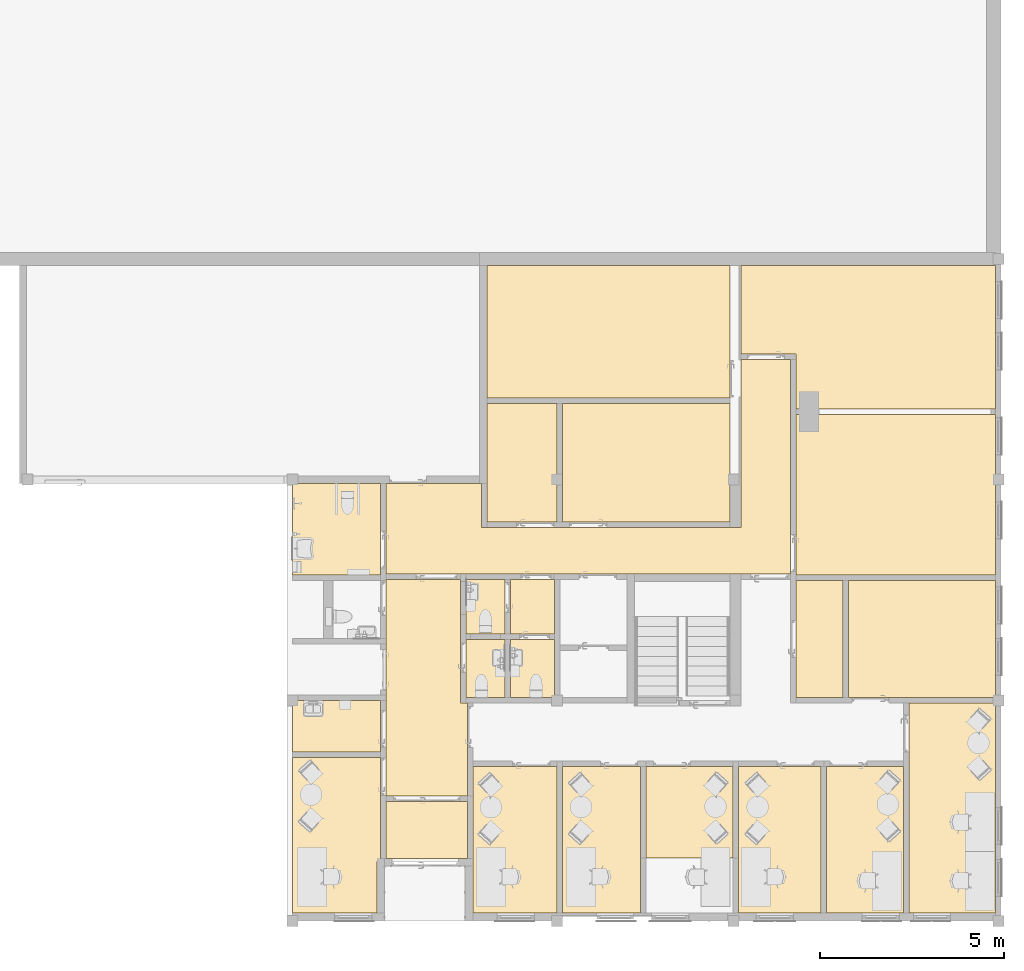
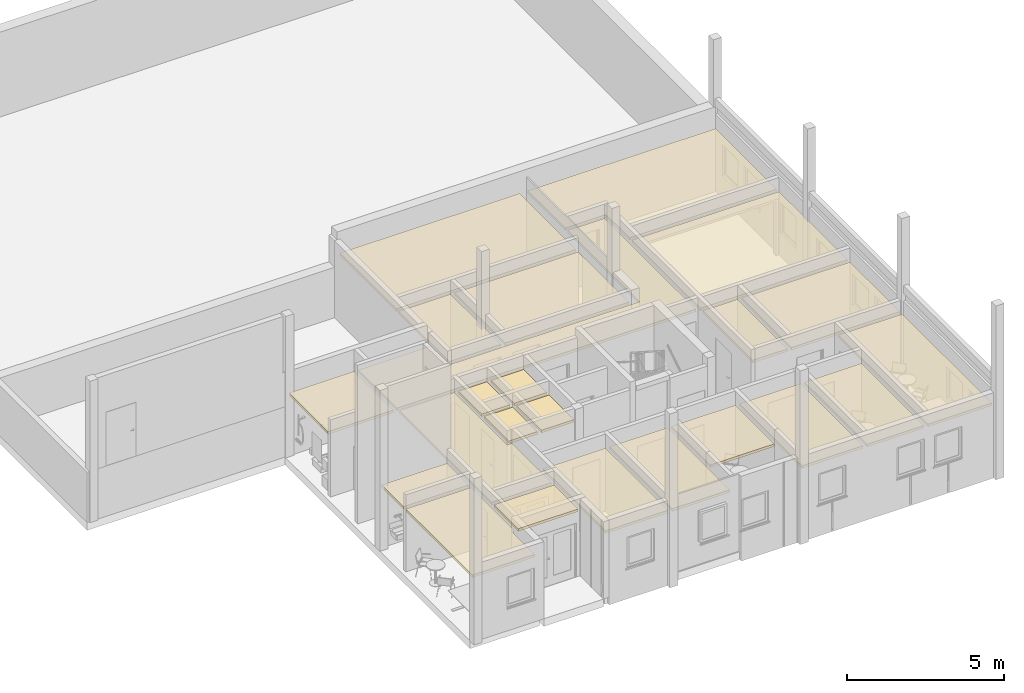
# One storey, part 39 of 58: 24 coverings.
"""IFC2X3 building model written with IfcOpenShell, lengths in millimetres."""

from ifc_helpers import new_model, entity, si_unit, converted_unit, derived_unit, direction, frame, frame_2d, origin, origin_2d_with_axis, place, context, subcontext, project, spatial, polyline, rectangle, outline, extrude, material, layer, layer_set, layer_usage, type_object, element, save


model = new_model("IFC2X3")

# Units and contexts
model_context = context("Model", 3, precision=0.01, world=origin(), true_north=direction((0.7716245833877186, 0.6360782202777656)))
body_context = subcontext(model_context, "Body", "Model", "MODEL_VIEW")
ifc_project = project(units=[si_unit("LENGTHUNIT", "METRE", prefix="MILLI"), si_unit("AREAUNIT", "SQUARE_METRE"), converted_unit("PLANEANGLEUNIT", "DEGREE", entity("IfcPlaneAngleMeasure", 0.017453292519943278), si_unit("PLANEANGLEUNIT", "RADIAN"), dimensions=[0, 0, 0, 0, 0, 0, 0]), derived_unit("THERMALTRANSMITTANCEUNIT", [(si_unit("MASSUNIT", "GRAM", prefix="KILO"), 1), (si_unit("THERMODYNAMICTEMPERATUREUNIT", "KELVIN"), -1), (si_unit("TIMEUNIT", "SECOND"), -3)])], contexts=[model_context])

# Site, building, storey, space
site_placement = place(None, origin())
site = spatial("IfcSite", under=ifc_project, at=site_placement, Name="Default", CompositionType="ELEMENT")
building_placement = place(site_placement, origin())
building = spatial("IfcBuilding", under=site, at=building_placement, CompositionType="ELEMENT")
storey_placement = place(building_placement, frame((0.0, 0.0, 31140.0)))
storey = spatial("IfcBuildingStorey", under=building, at=storey_placement, Name="PLAN U1", CompositionType="ELEMENT", Elevation=31140.000000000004)
space_1_placement = place(storey_placement, origin())
space_1 = spatial("IfcSpace", under=storey, at=space_1_placement, Name="Korridor", CompositionType="ELEMENT", InteriorOrExteriorSpace="INTERNAL")

# Covering
ifc_material_1 = material(Name="<Unnamed>")
ifc_layer_1 = layer(ifc_material_1, 80.0)
ifc_material_2 = material(Name="Himling, system, 600 x 600")
ifc_layer_2 = layer(ifc_material_2, 20.0)
ifc_layer_set_1 = layer_set([ifc_layer_1, ifc_layer_2], Name="Compound Ceiling:2571 Innvendig systemhimling 600x600 100 mm")
ifc_layer_usage_1 = layer_usage(ifc_layer_set_1, "AXIS3", "NEGATIVE", 100.0)
covering_type_1 = type_object("IfcCoveringType", Name="Compound Ceiling:2571 Innvendig systemhimling 600x600 100 mm", PredefinedType="CEILING")
covering_1_placement = place(space_1_placement, origin())
element("IfcCovering", 1, at=covering_1_placement, inside=space_1, type_object=covering_type_1, material=ifc_layer_usage_1, Name="Compound Ceiling:2571 Innvendig systemhimling 600x600 100 mm", ObjectType="Compound Ceiling:2571 Innvendig systemhimling 600x600 100 mm", PredefinedType="CEILING", context=body_context, shape_type="SweptSolid", body=[
    extrude(outline(polyline([(3582.692307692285, -1470.3479587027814), (4932.692307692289, -1470.3479587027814), (4932.692307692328, 4365.405951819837), (3582.692307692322, 4365.405951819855), (3582.692307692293, -209.59404818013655), (-3477.307692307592, -209.59404818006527), (-3477.307692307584, 990.4059518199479), (-6067.307692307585, 990.4059518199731), (-6067.3076923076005, -1470.3479587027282), (-4042.3076923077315, -1470.3479587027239), (-1497.307692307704, -1470.3479587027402), (582.6923076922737, -1470.3479587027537), (3432.6923076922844, -1470.3479587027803), (3582.692307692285, -1470.3479587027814)])), frame((267335.2321387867, 64224.849598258, 2350.0)), (0.0, 0.0, 1.0), 99.99999999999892),
])

# Space
space_2_placement = place(storey_placement, origin())
space_2 = spatial("IfcSpace", under=storey, at=space_2_placement, Name="Gang", CompositionType="ELEMENT", InteriorOrExteriorSpace="INTERNAL")

# Covering
ifc_layer_usage_2 = layer_usage(ifc_layer_set_1, "AXIS3", "NEGATIVE", 100.0)
covering_2_placement = place(space_2_placement, origin())
element("IfcCovering", 2, at=covering_2_placement, inside=space_2, type_object=covering_type_1, material=ifc_layer_usage_2, Name="Compound Ceiling:2571 Innvendig systemhimling 600x600 100 mm", ObjectType="Compound Ceiling:2571 Innvendig systemhimling 600x600 100 mm", PredefinedType="CEILING", context=body_context, shape_type="SweptSolid", body=[
    extrude(outline(polyline([(-2963.3422835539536, -1148.2500000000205), (-438.3422835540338, -1148.2500000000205), (-438.3422835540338, -967.2499999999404), (2925.9038059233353, -967.2499999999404), (2925.903805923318, 1057.7499999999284), (1315.9038059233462, 1057.7499999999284), (-364.3422835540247, 1057.7499999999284), (-2963.342283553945, 1057.7499999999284), (-2963.3422835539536, -1148.2500000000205)])), frame((262325.674446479, 59678.59783363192, 2350.0), z_axis=(0.0, 0.0, 1.0), x_axis=(0.0, 1.0, 0.0)), (0.0, 0.0, 1.0), 99.99999999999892),
])

# Space
space_3_placement = place(storey_placement, origin())
space_3 = spatial("IfcSpace", under=storey, at=space_3_placement, Name="Kontor", CompositionType="ELEMENT", InteriorOrExteriorSpace="INTERNAL")

# Covering
ifc_layer_usage_3 = layer_usage(ifc_layer_set_1, "AXIS3", "NEGATIVE", 100.0)
covering_3_placement = place(space_3_placement, origin())
element("IfcCovering", 3, at=covering_3_placement, inside=space_3, type_object=covering_type_1, material=ifc_layer_usage_3, Name="Compound Ceiling:2571 Innvendig systemhimling 600x600 100 mm", ObjectType="Compound Ceiling:2571 Innvendig systemhimling 600x600 100 mm", PredefinedType="CEILING", context=body_context, shape_type="SweptSolid", body=[
    extrude(rectangle(XDim=3987.9999999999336, YDim=2293.9999999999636, at=frame_2d((-12.571428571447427, -491.5714285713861), x_axis=(1.0, 0.0))), frame((264279.35301790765, 55533.826978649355, 2350.0), z_axis=(0.0, 0.0, 1.0), x_axis=(0.0, 1.0, 0.0)), (0.0, 0.0, 1.0), 99.99999999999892),
])

# Space
space_4_placement = place(storey_placement, origin())
space_4 = spatial("IfcSpace", under=storey, at=space_4_placement, Name="B5-324", CompositionType="ELEMENT", InteriorOrExteriorSpace="INTERNAL")

# Covering
ifc_layer_usage_4 = layer_usage(ifc_layer_set_1, "AXIS3", "NEGATIVE", 100.0)
covering_4_placement = place(space_4_placement, origin())
element("IfcCovering", 4, at=covering_4_placement, inside=space_4, type_object=covering_type_1, material=ifc_layer_usage_4, Name="Compound Ceiling:2571 Innvendig systemhimling 600x600 100 mm", ObjectType="Compound Ceiling:2571 Innvendig systemhimling 600x600 100 mm", PredefinedType="CEILING", context=body_context, shape_type="SweptSolid", body=[
    extrude(rectangle(XDim=2487.9999999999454, YDim=2355.3679592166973, at=frame_2d((-8.640199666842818e-12, 0.0), x_axis=(1.0, 0.0))), frame((269515.24046687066, 56271.2555500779, 2350.0), z_axis=(0.0, 0.0, 1.0), x_axis=(0.0, 1.0, 0.0)), (0.0, 0.0, 1.0), 99.99999999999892),
])

# Space
space_5_placement = place(storey_placement, origin())
space_5 = spatial("IfcSpace", under=storey, at=space_5_placement, Name="Vindfang", CompositionType="ELEMENT", InteriorOrExteriorSpace="INTERNAL")

# Covering
ifc_layer_usage_5 = layer_usage(ifc_layer_set_1, "AXIS3", "NEGATIVE", 100.0)
covering_5_placement = place(space_5_placement, origin())
element("IfcCovering", 5, at=covering_5_placement, inside=space_5, type_object=covering_type_1, material=ifc_layer_usage_5, Name="Compound Ceiling:2571 Innvendig systemhimling 600x600 100 mm", ObjectType="Compound Ceiling:2571 Innvendig systemhimling 600x600 100 mm", PredefinedType="CEILING", context=body_context, shape_type="SweptSolid", body=[
    extrude(rectangle(XDim=1543.9999999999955, YDim=2205.999999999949, at=frame_2d((4.320099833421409e-12, 0.0), x_axis=(1.0, 0.0))), frame((262370.92444647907, 55793.25555007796, 2350.0), z_axis=(0.0, 0.0, 1.0), x_axis=(0.0, 1.0, 0.0)), (0.0, 0.0, 1.0), 99.99999999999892),
])

# Space
space_6_placement = place(storey_placement, origin())
space_6 = spatial("IfcSpace", under=storey, at=space_6_placement, Name="B5-326", CompositionType="ELEMENT", InteriorOrExteriorSpace="INTERNAL")

# Covering
ifc_layer_3 = layer(ifc_material_1, 100.0)
ifc_layer_set_2 = layer_set([ifc_layer_3], Name="Compound Ceiling:257 Generisk himling 100 mm")
ifc_layer_usage_6 = layer_usage(ifc_layer_set_2, "AXIS3", "NEGATIVE", 100.0)
covering_type_2 = type_object("IfcCoveringType", Name="Compound Ceiling:257 Generisk himling 100 mm", PredefinedType="CEILING")
covering_6_placement = place(space_6_placement, origin())
element("IfcCovering", 6, at=covering_6_placement, inside=space_6, type_object=covering_type_2, material=ifc_layer_usage_6, Name="Compound Ceiling:257 Generisk himling 100 mm", ObjectType="Compound Ceiling:257 Generisk himling 100 mm", PredefinedType="CEILING", context=body_context, shape_type="SweptSolid", body=[
    extrude(rectangle(XDim=3987.9999999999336, YDim=2119.6320407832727, at=frame_2d((189.4166666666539, 353.27200679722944), x_axis=(1.0, 0.0))), frame((267481.01247366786, 55331.83888341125, 2350.0), z_axis=(0.0, 0.0, 1.0), x_axis=(0.0, 1.0, 0.0)), (0.0, 0.0, 1.0), 99.99999999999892),
])

# Space
space_7_placement = place(storey_placement, origin())
space_7 = spatial("IfcSpace", under=storey, at=space_7_placement, Name="B5-323", CompositionType="ELEMENT", InteriorOrExteriorSpace="INTERNAL")

# Covering
ifc_layer_usage_7 = layer_usage(ifc_layer_set_2, "AXIS3", "NEGATIVE", 100.0)
covering_7_placement = place(space_7_placement, origin())
element("IfcCovering", 7, at=covering_7_placement, inside=space_7, type_object=covering_type_2, material=ifc_layer_usage_7, Name="Compound Ceiling:257 Generisk himling 100 mm", ObjectType="Compound Ceiling:257 Generisk himling 100 mm", PredefinedType="CEILING", context=body_context, shape_type="SweptSolid", body=[
    extrude(rectangle(XDim=2250.000000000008, YDim=3987.9999999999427, at=frame_2d((-190.0000000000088, 122.50000000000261), x_axis=(1.0, 0.0))), frame((271777.924446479, 55643.7555500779, 2350.0), z_axis=(0.0, 0.0, 1.0), x_axis=(-1.0, 0.0, 0.0)), (0.0, 0.0, 1.0), 99.99999999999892),
])

# Space
space_8_placement = place(storey_placement, origin())
space_8 = spatial("IfcSpace", under=storey, at=space_8_placement, Name="B5-322", CompositionType="ELEMENT", InteriorOrExteriorSpace="INTERNAL")

# Covering
ifc_layer_usage_8 = layer_usage(ifc_layer_set_2, "AXIS3", "NEGATIVE", 100.0)
covering_8_placement = place(space_8_placement, origin())
element("IfcCovering", 8, at=covering_8_placement, inside=space_8, type_object=covering_type_2, material=ifc_layer_usage_8, Name="Compound Ceiling:257 Generisk himling 100 mm", ObjectType="Compound Ceiling:257 Generisk himling 100 mm", PredefinedType="CEILING", context=body_context, shape_type="SweptSolid", body=[
    extrude(rectangle(XDim=2090.00000000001, YDim=3987.9999999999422, at=frame_2d((1.7394086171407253e-11, 4.320099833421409e-12), x_axis=(1.0, 0.0))), frame((274287.924446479, 55521.25555007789, 2350.0), z_axis=(0.0, 0.0, 1.0), x_axis=(-1.0, 0.0, 0.0)), (0.0, 0.0, 1.0), 99.99999999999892),
])

# Space
space_9_placement = place(storey_placement, origin())
space_9 = spatial("IfcSpace", under=storey, at=space_9_placement, Name="B5-321", CompositionType="ELEMENT", InteriorOrExteriorSpace="INTERNAL")

# Covering
ifc_layer_usage_9 = layer_usage(ifc_layer_set_2, "AXIS3", "NEGATIVE", 100.0)
covering_9_placement = place(space_9_placement, origin())
element("IfcCovering", 9, at=covering_9_placement, inside=space_9, type_object=covering_type_2, material=ifc_layer_usage_9, Name="Compound Ceiling:257 Generisk himling 100 mm", ObjectType="Compound Ceiling:257 Generisk himling 100 mm", PredefinedType="CEILING", context=body_context, shape_type="SweptSolid", body=[
    extrude(rectangle(XDim=2347.3329011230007, YDim=5712.99999999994, at=frame_2d((1.7280399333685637e-11, 0.0), x_axis=(1.0, 0.0))), frame((276656.59089704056, 56383.755550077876, 2350.0), z_axis=(0.0, 0.0, 1.0), x_axis=(-1.0, 0.0, 0.0)), (0.0, 0.0, 1.0), 99.99999999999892),
])

# Space
space_10_placement = place(storey_placement, origin())
space_10 = spatial("IfcSpace", under=storey, at=space_10_placement, Name="B5-401", CompositionType="ELEMENT", InteriorOrExteriorSpace="INTERNAL")

# Covering
ifc_layer_usage_10 = layer_usage(ifc_layer_set_2, "AXIS3", "NEGATIVE", 100.0)
covering_10_placement = place(space_10_placement, origin())
element("IfcCovering", 10, at=covering_10_placement, inside=space_10, type_object=covering_type_2, material=ifc_layer_usage_10, Name="Compound Ceiling:257 Generisk himling 100 mm", ObjectType="Compound Ceiling:257 Generisk himling 100 mm", PredefinedType="CEILING", context=body_context, shape_type="SweptSolid", body=[
    extrude(rectangle(XDim=3180.4675216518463, YDim=1275.0000000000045, at=frame_2d((0.0, 1.7337242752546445e-11), x_axis=(1.0, 0.0))), frame((273055.424446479, 60980.48931090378, 2350.0), z_axis=(0.0, 0.0, 1.0), x_axis=(0.0, 1.0, 0.0)), (0.0, 0.0, 1.0), 99.99999999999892),
])

# Space
space_11_placement = place(storey_placement, origin())
space_11 = spatial("IfcSpace", under=storey, at=space_11_placement, Name="B5-317", CompositionType="ELEMENT", InteriorOrExteriorSpace="INTERNAL")

# Covering
ifc_layer_usage_11 = layer_usage(ifc_layer_set_2, "AXIS3", "NEGATIVE", 100.0)
covering_11_placement = place(space_11_placement, origin())
element("IfcCovering", 11, at=covering_11_placement, inside=space_11, type_object=covering_type_2, material=ifc_layer_usage_11, Name="Compound Ceiling:257 Generisk himling 100 mm", ObjectType="Compound Ceiling:257 Generisk himling 100 mm", PredefinedType="CEILING", context=body_context, shape_type="SweptSolid", body=[
    extrude(rectangle(XDim=5412.332901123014, YDim=4372.700035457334, at=frame_2d((1.7280399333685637e-11, 0.0), x_axis=(1.0, 0.0))), frame((275124.0908970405, 64907.07308945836, 2350.0), z_axis=(0.0, 0.0, 1.0), x_axis=(-1.0, 0.0, 0.0)), (0.0, 0.0, 1.0), 99.99999999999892),
])

# Space
space_12_placement = place(storey_placement, origin())
space_12 = spatial("IfcSpace", under=storey, at=space_12_placement, Name="B5-314", CompositionType="ELEMENT", InteriorOrExteriorSpace="INTERNAL")

# Covering
ifc_layer_usage_12 = layer_usage(ifc_layer_set_2, "AXIS3", "NEGATIVE", 100.0)
covering_12_placement = place(space_12_placement, origin())
element("IfcCovering", 12, at=covering_12_placement, inside=space_12, type_object=covering_type_2, material=ifc_layer_usage_12, Name="Compound Ceiling:257 Generisk himling 100 mm", ObjectType="Compound Ceiling:257 Generisk himling 100 mm", PredefinedType="CEILING", context=body_context, shape_type="SweptSolid", body=[
    extrude(outline(polyline([(-2095.6108142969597, -2804.1109670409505), (299.3891857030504, -2804.1109670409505), (299.389185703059, -1304.110967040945), (1796.2216285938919, -1304.110967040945), (1796.2216285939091, 4108.221934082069), (-2095.6108142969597, 4108.221934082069), (-2095.6108142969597, -2804.1109670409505)])), frame((273722.03541351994, 69039.64473578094, 2350.0), z_axis=(0.0, 0.0, 1.0), x_axis=(0.0, -1.0, 0.0)), (0.0, 0.0, 1.0), 99.99999999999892),
])

# Space
space_13_placement = place(storey_placement, origin())
space_13 = spatial("IfcSpace", under=storey, at=space_13_placement, Name="B5-319", CompositionType="ELEMENT", InteriorOrExteriorSpace="INTERNAL")

# Covering
ifc_layer_usage_13 = layer_usage(ifc_layer_set_2, "AXIS3", "NEGATIVE", 100.0)
covering_13_placement = place(space_13_placement, origin())
element("IfcCovering", 13, at=covering_13_placement, inside=space_13, type_object=covering_type_2, material=ifc_layer_usage_13, Name="Compound Ceiling:257 Generisk himling 100 mm", ObjectType="Compound Ceiling:257 Generisk himling 100 mm", PredefinedType="CEILING", context=body_context, shape_type="SweptSolid", body=[
    extrude(rectangle(XDim=3987.332901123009, YDim=3180.4675216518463, at=frame_2d((0.0, 4.320099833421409e-12), x_axis=(1.0, 0.0))), frame((275836.5908970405, 60980.48931090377, 2350.0), z_axis=(0.0, 0.0, 1.0), x_axis=(-1.0, 0.0, 0.0)), (0.0, 0.0, 1.0), 99.99999999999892),
])

# Space
space_14_placement = place(storey_placement, origin())
space_14 = spatial("IfcSpace", under=storey, at=space_14_placement, Name="B5-302", CompositionType="ELEMENT", InteriorOrExteriorSpace="INTERNAL")

# Covering
ifc_layer_usage_14 = layer_usage(ifc_layer_set_2, "AXIS3", "NEGATIVE", 100.0)
covering_14_placement = place(space_14_placement, origin())
element("IfcCovering", 14, at=covering_14_placement, inside=space_14, type_object=covering_type_2, material=ifc_layer_usage_14, Name="Compound Ceiling:257 Generisk himling 100 mm", ObjectType="Compound Ceiling:257 Generisk himling 100 mm", PredefinedType="CEILING", context=body_context, shape_type="SweptSolid", body=[
    extrude(rectangle(XDim=2400.000000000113, YDim=1399.0000000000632, at=frame_2d((-1.7394086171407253e-11, 4.320099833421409e-12), x_axis=(1.0, 0.0))), frame((259917.92444647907, 58614.75555007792, 2350.0)), (0.0, 0.0, 1.0), 99.99999999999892),
])

# Space
space_15_placement = place(storey_placement, origin())
space_15 = spatial("IfcSpace", under=storey, at=space_15_placement, Name="B5-301", CompositionType="ELEMENT", InteriorOrExteriorSpace="INTERNAL")

# Covering
ifc_layer_usage_15 = layer_usage(ifc_layer_set_2, "AXIS3", "NEGATIVE", 100.0)
covering_15_placement = place(space_15_placement, origin())
element("IfcCovering", 15, at=covering_15_placement, inside=space_15, type_object=covering_type_2, material=ifc_layer_usage_15, Name="Compound Ceiling:257 Generisk himling 100 mm", ObjectType="Compound Ceiling:257 Generisk himling 100 mm", PredefinedType="CEILING", context=body_context, shape_type="SweptSolid", body=[
    extrude(outline(polyline([(158.62762124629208, -872.8054702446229), (308.5342588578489, -872.8054702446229), (2248.8352664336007, 1067.4955373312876), (551.7789915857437, 2764.5518121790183), (-2444.939547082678, -232.16672648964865), (-822.8365910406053, -1854.269682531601), (158.62762124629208, -872.8054702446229)])), frame((260282.5911131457, 55420.255550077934, 2350.0), z_axis=(0.0, 0.0, 1.0), x_axis=(0.7071067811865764, 0.7071067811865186, 0.0)), (0.0, 0.0, 1.0), 99.99999999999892),
])

# Space
space_16_placement = place(storey_placement, origin())
space_16 = spatial("IfcSpace", under=storey, at=space_16_placement, Name="B5-311B", CompositionType="ELEMENT", InteriorOrExteriorSpace="INTERNAL")

# Covering
ifc_layer_usage_16 = layer_usage(ifc_layer_set_2, "AXIS3", "NEGATIVE", 100.0)
covering_16_placement = place(space_16_placement, origin())
element("IfcCovering", 16, at=covering_16_placement, inside=space_16, type_object=covering_type_2, material=ifc_layer_usage_16, Name="Compound Ceiling:257 Generisk himling 100 mm", ObjectType="Compound Ceiling:257 Generisk himling 100 mm", PredefinedType="CEILING", context=body_context, shape_type="SweptSolid", body=[
    extrude(rectangle(XDim=1582.12304473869, YDim=1050.0000000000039, at=frame_2d((-4.320099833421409e-12, 0.0), x_axis=(1.0, 0.0))), frame((263967.92444647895, 60181.31707244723, 2350.0), z_axis=(0.0, 0.0, 1.0), x_axis=(0.0, 1.0, 0.0)), (0.0, 0.0, 1.0), 99.99999999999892),
])

# Space
space_17_placement = place(storey_placement, origin())
space_17 = spatial("IfcSpace", under=storey, at=space_17_placement, Name="WC", CompositionType="ELEMENT", InteriorOrExteriorSpace="INTERNAL")

# Covering
ifc_layer_usage_17 = layer_usage(ifc_layer_set_2, "AXIS3", "NEGATIVE", 100.0)
covering_17_placement = place(space_17_placement, origin())
element("IfcCovering", 17, at=covering_17_placement, inside=space_17, type_object=covering_type_2, material=ifc_layer_usage_17, Name="Compound Ceiling:257 Generisk himling 100 mm", ObjectType="Compound Ceiling:257 Generisk himling 100 mm", PredefinedType="CEILING", context=body_context, shape_type="SweptSolid", body=[
    extrude(rectangle(XDim=1482.1230447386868, YDim=1050.0000000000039, at=frame_2d((-8.640199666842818e-12, 0.0), x_axis=(1.0, 0.0))), frame((263967.92444647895, 61863.44011718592, 2350.0), z_axis=(0.0, 0.0, 1.0), x_axis=(0.0, 1.0, 0.0)), (0.0, 0.0, 1.0), 99.99999999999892),
])

# Space
space_18_placement = place(storey_placement, origin())
space_18 = spatial("IfcSpace", under=storey, at=space_18_placement, Name="B5-311", CompositionType="ELEMENT", InteriorOrExteriorSpace="INTERNAL")

# Covering
ifc_layer_usage_18 = layer_usage(ifc_layer_set_2, "AXIS3", "NEGATIVE", 100.0)
covering_18_placement = place(space_18_placement, origin())
element("IfcCovering", 18, at=covering_18_placement, inside=space_18, type_object=covering_type_2, material=ifc_layer_usage_18, Name="Compound Ceiling:257 Generisk himling 100 mm", ObjectType="Compound Ceiling:257 Generisk himling 100 mm", PredefinedType="CEILING", context=body_context, shape_type="SweptSolid", body=[
    extrude(rectangle(XDim=1482.1230447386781, YDim=1200.0000000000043, at=origin_2d_with_axis()), frame((265242.924446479, 61863.440117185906, 2350.0), z_axis=(0.0, 0.0, 1.0), x_axis=(0.0, -1.0, 0.0)), (0.0, 0.0, 1.0), 99.99999999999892),
])

# Space
space_19_placement = place(storey_placement, origin())
space_19 = spatial("IfcSpace", under=storey, at=space_19_placement, Name="B5-311A", CompositionType="ELEMENT", InteriorOrExteriorSpace="INTERNAL")

# Covering
ifc_layer_usage_19 = layer_usage(ifc_layer_set_2, "AXIS3", "NEGATIVE", 100.0)
covering_19_placement = place(space_19_placement, origin())
element("IfcCovering", 19, at=covering_19_placement, inside=space_19, type_object=covering_type_2, material=ifc_layer_usage_19, Name="Compound Ceiling:257 Generisk himling 100 mm", ObjectType="Compound Ceiling:257 Generisk himling 100 mm", PredefinedType="CEILING", context=body_context, shape_type="SweptSolid", body=[
    extrude(rectangle(XDim=1582.1230447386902, YDim=1200.0000000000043, at=frame_2d((-8.697043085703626e-12, 0.0), x_axis=(1.0, 0.0))), frame((265242.924446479, 60181.31707244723, 2350.0), z_axis=(0.0, 0.0, 1.0), x_axis=(0.0, 1.0, 0.0)), (0.0, 0.0, 1.0), 99.99999999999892),
])

# Space
space_20_placement = place(storey_placement, origin())
space_20 = spatial("IfcSpace", under=storey, at=space_20_placement, Name="B5-304", CompositionType="ELEMENT", InteriorOrExteriorSpace="INTERNAL")

# Covering
ifc_layer_usage_20 = layer_usage(ifc_layer_set_2, "AXIS3", "NEGATIVE", 100.0)
covering_20_placement = place(space_20_placement, origin())
element("IfcCovering", 20, at=covering_20_placement, inside=space_20, type_object=covering_type_2, material=ifc_layer_usage_20, Name="Compound Ceiling:257 Generisk himling 100 mm", ObjectType="Compound Ceiling:257 Generisk himling 100 mm", PredefinedType="CEILING", context=body_context, shape_type="SweptSolid", body=[
    extrude(rectangle(XDim=2400.000000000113, YDim=2494.5324783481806, at=frame_2d((-1.7394086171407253e-11, 4.320099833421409e-12), x_axis=(1.0, 0.0))), frame((259917.92444647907, 63967.989310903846, 2350.0)), (0.0, 0.0, 1.0), 99.99999999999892),
])

# Space
space_21_placement = place(storey_placement, origin())
space_21 = spatial("IfcSpace", under=storey, at=space_21_placement, Name="B5-303", CompositionType="ELEMENT", InteriorOrExteriorSpace="INTERNAL")

# Covering
ifc_layer_usage_21 = layer_usage(ifc_layer_set_2, "AXIS3", "NEGATIVE", 100.0)
covering_21_placement = place(space_21_placement, origin())
element("IfcCovering", 21, at=covering_21_placement, inside=space_21, type_object=covering_type_2, material=ifc_layer_usage_21, Name="Compound Ceiling:257 Generisk himling 100 mm", ObjectType="Compound Ceiling:257 Generisk himling 100 mm", PredefinedType="CEILING", context=body_context, shape_type="SweptSolid", body=[
    extrude(rectangle(XDim=1909.9999999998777, YDim=3224.999999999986, at=frame_2d((190.99999999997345, 92.49999999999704), x_axis=(1.0, 0.0))), frame((264771.92444647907, 65685.25555007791, 2350.0)), (0.0, 0.0, 1.0), 99.99999999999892),
])

# Space
space_22_placement = place(storey_placement, origin())
space_22 = spatial("IfcSpace", under=storey, at=space_22_placement, Name="B5-307", CompositionType="ELEMENT", InteriorOrExteriorSpace="INTERNAL")

# Covering
ifc_layer_usage_22 = layer_usage(ifc_layer_set_2, "AXIS3", "NEGATIVE", 100.0)
covering_22_placement = place(space_22_placement, origin())
element("IfcCovering", 22, at=covering_22_placement, inside=space_22, type_object=covering_type_2, material=ifc_layer_usage_22, Name="Compound Ceiling:257 Generisk himling 100 mm", ObjectType="Compound Ceiling:257 Generisk himling 100 mm", PredefinedType="CEILING", context=body_context, shape_type="SweptSolid", body=[
    extrude(rectangle(XDim=4550.0000000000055, YDim=3224.999999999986, at=frame_2d((-1.7280399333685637e-11, 4.320099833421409e-12), x_axis=(1.0, 0.0))), frame((268342.92444647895, 65777.7555500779, 2350.0), z_axis=(0.0, 0.0, 1.0), x_axis=(-1.0, 0.0, 0.0)), (0.0, 0.0, 1.0), 99.99999999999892),
])

# Space
space_23_placement = place(storey_placement, origin())
space_23 = spatial("IfcSpace", under=storey, at=space_23_placement, Name="B5-313", CompositionType="ELEMENT", InteriorOrExteriorSpace="INTERNAL")

# Coverings
ifc_layer_usage_23 = layer_usage(ifc_layer_set_2, "AXIS3", "NEGATIVE", 100.0)
covering_23_placement = place(space_23_placement, origin())
element("IfcCovering", 23, at=covering_23_placement, inside=space_23, type_object=covering_type_2, material=ifc_layer_usage_23, Name="Compound Ceiling:257 Generisk himling 100 mm", ObjectType="Compound Ceiling:257 Generisk himling 100 mm", PredefinedType="CEILING", context=body_context, shape_type="SweptSolid", body=[
    extrude(rectangle(XDim=3594.999999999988, YDim=6609.999999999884, at=frame_2d((8.753886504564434e-12, 1.7280399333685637e-11), x_axis=(1.0, 0.0))), frame((267312.924446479, 69337.7555500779, 2350.0), z_axis=(0.0, 0.0, 1.0), x_axis=(0.0, -1.0, 0.0)), (0.0, 0.0, 1.0), 99.99999999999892),
])
ifc_layer_usage_24 = layer_usage(ifc_layer_set_2, "AXIS3", "NEGATIVE", 100.0)
covering_24_placement = place(space_5_placement, origin())
element("IfcCovering", 24, at=covering_24_placement, inside=space_5, type_object=covering_type_2, material=ifc_layer_usage_24, Name="Compound Ceiling:257 Generisk himling 100 mm", ObjectType="Compound Ceiling:257 Generisk himling 100 mm", PredefinedType="CEILING", context=body_context, shape_type="SweptSolid", body=[
    extrude(rectangle(XDim=1543.9999999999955, YDim=2205.999999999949, at=frame_2d((4.320099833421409e-12, 0.0), x_axis=(1.0, 0.0))), frame((262370.92444647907, 55793.25555007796, 2350.0), z_axis=(0.0, 0.0, 1.0), x_axis=(0.0, 1.0, 0.0)), (0.0, 0.0, 1.0), 99.99999999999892),
])

save(model, "model.ifc")
